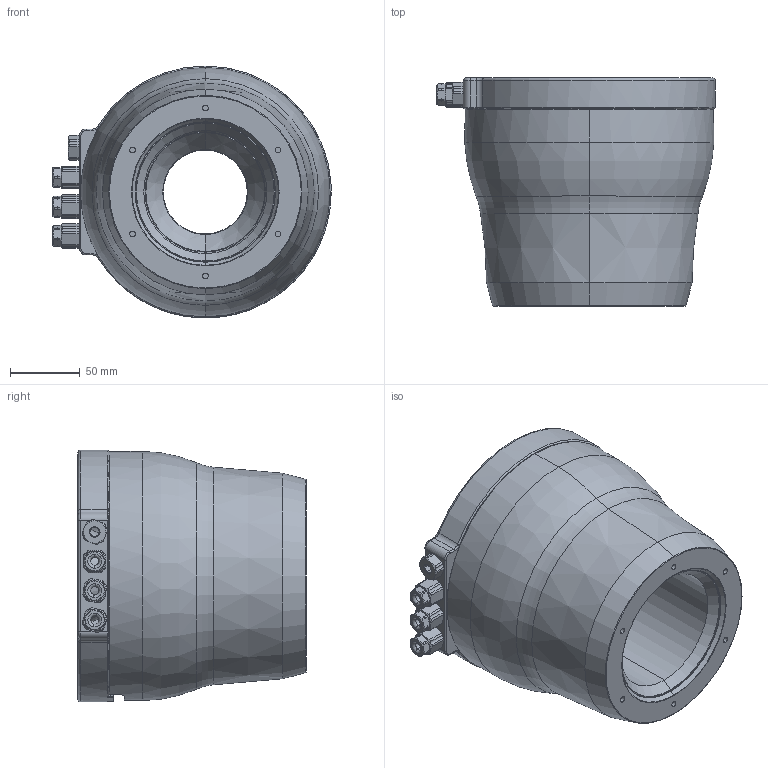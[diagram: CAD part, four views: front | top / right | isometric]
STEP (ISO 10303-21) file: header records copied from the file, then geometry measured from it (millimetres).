
FILE_DESCRIPTION (( 'STEP AP214' ), '1' );
FILE_NAME ('transmit-coil.STEP', '2025-12-05T00:10:09', ( '' ), ( '' ), 'SwSTEP 2.0', 'SolidWorks 2024', '' );
FILE_SCHEMA (( 'AUTOMOTIVE_DESIGN' ));
Length unit declared in the file: millimetre
Products named in the file (1): transmit-coil
Bounding box: 199 x 163 x 179.98 mm (x, y, z)
Surface area: 178092.8 mm2 (no closed solid volume)
Topology: 0 solids, 13 shells, 341 faces, 1035 edges, 693 vertices
Faces by surface type: cylinder 149, cone 83, plane 70, torus 37, bspline 2
Entity records: 16240 total; most frequent: CARTESIAN_POINT 3475, DIRECTION 1936, ORIENTED_EDGE 1737, EDGE_CURVE 1035, AXIS2_PLACEMENT_3D 804, VERTEX_POINT 693, CIRCLE 464, EDGE_LOOP 369
